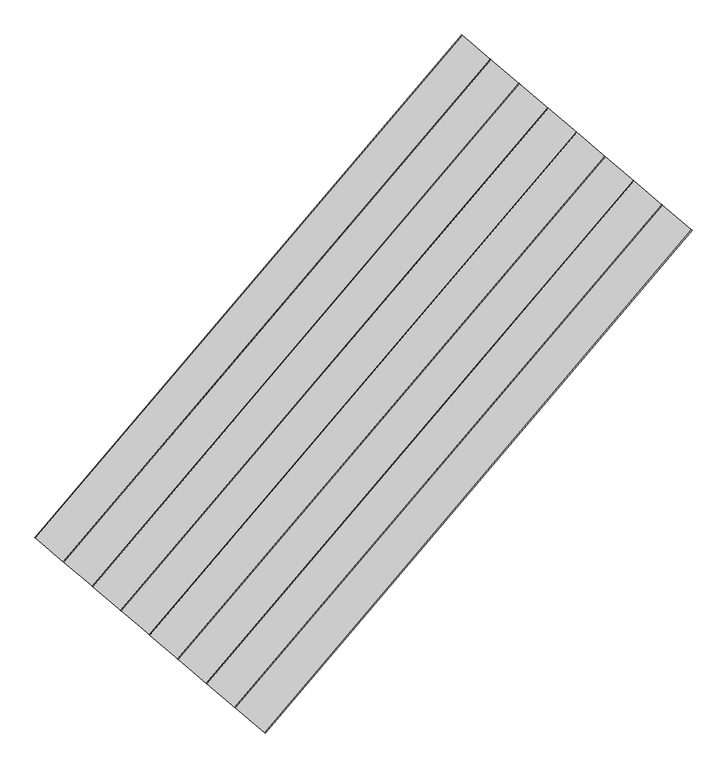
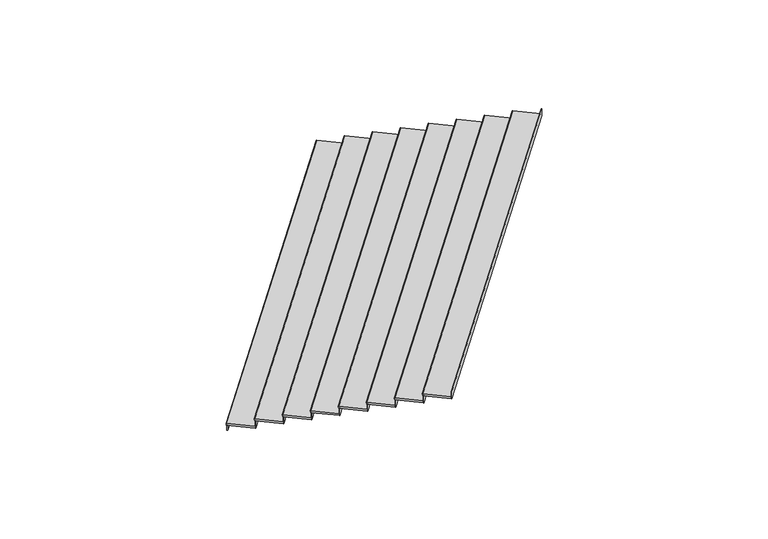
"""IFC4 building model written with IfcOpenShell, lengths in millimetres: stair flight geometry, Wood Steps with 50 mm Tread 20 mm Nosing 13 mm Riser."""

from ifc_helpers import new_model, si_unit, point, frame, frame_2d, origin, place, context, project, spatial, polyline, circle_curve, trimmed, segment, composite_curve, outline, extrude, source, transform, mapped, element, save


def stair_flight_07ffd0dd(model_context):
    return source(origin(), model_context, "Body", "SweptSolid", [
        extrude(outline(composite_curve([segment(polyline([(0.0, -598.410772), (0.0, 0.0)]), True, "CONTINUOUS"), segment(trimmed(circle_curve(frame_2d((10.0, 0.0)), 10.0), [point((0.0, 0.0))], [point((20.0, 0.0))], False, "CARTESIAN"), True, "CONTINUOUS"), segment(polyline([(20.0, 0.0), (50.0, 0.0), (50.0, -598.410772), (0.0, -598.410772)]), True, "CONTINUOUS")], self_intersect=False)), frame((857507.5069396, 43865.6872063, 2679.2941176), z_axis=(0.6473560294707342, 0.762187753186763, 0.0), x_axis=(0.0, 0.0, -1.0)), (0.0, 0.0, 1.0), 10348.9095119),
        extrude(outline(polyline([(857524.6561641, 43851.1216957), (857515.1288172, 43859.213646), (864214.5577881, 51747.0257349), (864224.085135, 51738.9337845), (857524.6561641, 43851.1216957)])), frame((0.0, 0.0, 2500.0), z_axis=(0.0, 0.0, 1.0), x_axis=(1.0, 0.0, 0.0)), (0.0, 0.0, 1.0), 129.2941176),
        extrude(outline(polyline([(857973.1356483, 43470.2104346), (857963.6083014, 43478.302385), (864663.0372724, 51366.1144738), (864672.5646193, 51358.0225234), (857973.1356483, 43470.2104346)])), frame((0.0, 0.0, 2629.2941176), z_axis=(0.0, 0.0, 1.0), x_axis=(1.0, 0.0, 0.0)), (0.0, 0.0, 1.0), 179.2941176),
        extrude(outline(composite_curve([segment(polyline([(0.0, -598.410772), (0.0, 0.0)]), True, "CONTINUOUS"), segment(trimmed(circle_curve(frame_2d((10.0, 0.0)), 10.0), [point((0.0, 0.0))], [point((20.0, 0.0))], False, "CARTESIAN"), True, "CONTINUOUS"), segment(polyline([(20.0, 0.0), (50.0, 0.0), (50.0, -598.410772), (0.0, -598.410772)]), True, "CONTINUOUS")], self_intersect=False)), frame((857955.9864239, 43484.7759453, 2858.5882353), z_axis=(0.6473560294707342, 0.762187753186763, 0.0), x_axis=(0.0, 0.0, -1.0)), (0.0, 0.0, 1.0), 10348.9095119),
        extrude(outline(polyline([(858421.6151326, 43089.2991736), (858412.0877857, 43097.3911239), (865111.5167566, 50985.2032128), (865121.0441035, 50977.1112624), (858421.6151326, 43089.2991736)])), frame((0.0, 0.0, 2808.5882353), z_axis=(0.0, 0.0, 1.0), x_axis=(1.0, 0.0, 0.0)), (0.0, 0.0, 1.0), 179.2941176),
        extrude(outline(composite_curve([segment(polyline([(0.0, -598.410772), (0.0, 0.0)]), True, "CONTINUOUS"), segment(trimmed(circle_curve(frame_2d((10.0, 0.0)), 10.0), [point((0.0, 0.0))], [point((20.0, 0.0))], False, "CARTESIAN"), True, "CONTINUOUS"), segment(polyline([(20.0, 0.0), (50.0, 0.0), (50.0, -598.410772), (0.0, -598.410772)]), True, "CONTINUOUS")], self_intersect=False)), frame((858404.4659081, 43103.8646842, 3037.8823529), z_axis=(0.6473560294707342, 0.762187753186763, 0.0), x_axis=(0.0, 0.0, -1.0)), (0.0, 0.0, 1.0), 10348.9095119),
        extrude(outline(polyline([(858870.0946168, 42708.3879125), (858860.5672699, 42716.4798629), (865559.9962409, 50604.2919517), (865569.5235878, 50596.2000013), (858870.0946168, 42708.3879125)])), frame((0.0, 0.0, 2987.8823529), z_axis=(0.0, 0.0, 1.0), x_axis=(1.0, 0.0, 0.0)), (0.0, 0.0, 1.0), 179.2941176),
        extrude(outline(composite_curve([segment(polyline([(0.0, -598.410772), (0.0, 0.0)]), True, "CONTINUOUS"), segment(trimmed(circle_curve(frame_2d((10.0, 0.0)), 10.0), [point((0.0, 0.0))], [point((20.0, 0.0))], False, "CARTESIAN"), True, "CONTINUOUS"), segment(polyline([(20.0, 0.0), (50.0, 0.0), (50.0, -598.410772), (0.0, -598.410772)]), True, "CONTINUOUS")], self_intersect=False)), frame((858852.9453924, 42722.9534232, 3217.1764706), z_axis=(0.6473560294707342, 0.762187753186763, 0.0), x_axis=(0.0, 0.0, -1.0)), (0.0, 0.0, 1.0), 10348.9095119),
        extrude(outline(polyline([(859318.5741011, 42327.4766515), (859309.0467542, 42335.5686018), (866008.4757251, 50223.3806907), (866018.0030721, 50215.2887403), (859318.5741011, 42327.4766515)])), frame((0.0, 0.0, 3167.1764706), z_axis=(0.0, 0.0, 1.0), x_axis=(1.0, 0.0, 0.0)), (0.0, 0.0, 1.0), 179.2941176),
        extrude(outline(composite_curve([segment(polyline([(0.0, -598.410772), (0.0, 0.0)]), True, "CONTINUOUS"), segment(trimmed(circle_curve(frame_2d((10.0, 0.0)), 10.0), [point((0.0, 0.0))], [point((20.0, 0.0))], False, "CARTESIAN"), True, "CONTINUOUS"), segment(polyline([(20.0, 0.0), (50.0, 0.0), (50.0, -598.410772), (0.0, -598.410772)]), True, "CONTINUOUS")], self_intersect=False)), frame((859301.4248766, 42342.0421621, 3396.4705882), z_axis=(0.6473560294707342, 0.762187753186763, 0.0), x_axis=(0.0, 0.0, -1.0)), (0.0, 0.0, 1.0), 10348.9095119),
        extrude(outline(polyline([(859767.0535853, 41946.5653904), (859757.5262384, 41954.6573408), (866456.9552094, 49842.4694296), (866466.4825563, 49834.3774792), (859767.0535853, 41946.5653904)])), frame((0.0, 0.0, 3346.4705882), z_axis=(0.0, 0.0, 1.0), x_axis=(1.0, 0.0, 0.0)), (0.0, 0.0, 1.0), 179.2941176),
        extrude(outline(composite_curve([segment(polyline([(0.0, -598.410772), (0.0, 0.0)]), True, "CONTINUOUS"), segment(trimmed(circle_curve(frame_2d((10.0, 0.0)), 10.0), [point((0.0, 0.0))], [point((20.0, 0.0))], False, "CARTESIAN"), True, "CONTINUOUS"), segment(polyline([(20.0, 0.0), (50.0, 0.0), (50.0, -598.410772), (0.0, -598.410772)]), True, "CONTINUOUS")], self_intersect=False)), frame((859749.9043609, 41961.1309011, 3575.7647059), z_axis=(0.6473560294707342, 0.762187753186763, 0.0), x_axis=(0.0, 0.0, -1.0)), (0.0, 0.0, 1.0), 10348.9095119),
        extrude(outline(polyline([(860215.5330696, 41565.6541294), (860206.0057227, 41573.7460797), (866905.4346936, 49461.5581686), (866914.9620406, 49453.4662182), (860215.5330696, 41565.6541294)])), frame((0.0, 0.0, 3525.7647059), z_axis=(0.0, 0.0, 1.0), x_axis=(1.0, 0.0, 0.0)), (0.0, 0.0, 1.0), 179.2941176),
        extrude(outline(composite_curve([segment(polyline([(0.0, -598.410772), (0.0, 0.0)]), True, "CONTINUOUS"), segment(trimmed(circle_curve(frame_2d((10.0, 0.0)), 10.0), [point((0.0, 0.0))], [point((20.0, 0.0))], False, "CARTESIAN"), True, "CONTINUOUS"), segment(polyline([(20.0, 0.0), (50.0, 0.0), (50.0, -598.410772), (0.0, -598.410772)]), True, "CONTINUOUS")], self_intersect=False)), frame((860198.3838451, 41580.21964, 3755.0588235), z_axis=(0.6473560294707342, 0.762187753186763, 0.0), x_axis=(0.0, 0.0, -1.0)), (0.0, 0.0, 1.0), 10348.9095119),
        extrude(outline(polyline([(860664.0125538, 41184.7428683), (860654.4852069, 41192.8348187), (867353.9141779, 49080.6469075), (867363.4415248, 49072.5549571), (860664.0125538, 41184.7428683)])), frame((0.0, 0.0, 3705.0588235), z_axis=(0.0, 0.0, 1.0), x_axis=(1.0, 0.0, 0.0)), (0.0, 0.0, 1.0), 179.2941176),
        extrude(outline(polyline([(861112.4920381, 40803.8316073), (861102.9646912, 40811.9235576), (867802.3936622, 48699.7356464), (867811.9210091, 48691.6436961), (861112.4920381, 40803.8316073)])), frame((0.0, 0.0, 3884.3529412), z_axis=(0.0, 0.0, 1.0), x_axis=(1.0, 0.0, 0.0)), (0.0, 0.0, 1.0), 179.2941176),
        extrude(outline(composite_curve([segment(polyline([(0.0, -598.410772), (0.0, 0.0)]), True, "CONTINUOUS"), segment(trimmed(circle_curve(frame_2d((10.0, 0.0)), 10.0), [point((0.0, 0.0))], [point((20.0, 0.0))], False, "CARTESIAN"), True, "CONTINUOUS"), segment(polyline([(20.0, 0.0), (50.0, 0.0), (50.0, -598.410772), (0.0, -598.410772)]), True, "CONTINUOUS")], self_intersect=False)), frame((860646.8633294, 41199.308379, 3934.3529412), z_axis=(0.6473560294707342, 0.762187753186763, 0.0), x_axis=(0.0, 0.0, -1.0)), (0.0, 0.0, 1.0), 10348.9095119),
    ])


if __name__ == "__main__":
    model = new_model("IFC4")
    model_context = context("Model", 3, world=origin())
    ifc_project = project(units=[si_unit("LENGTHUNIT", "METRE", prefix="MILLI")], contexts=[model_context])
    site = spatial("IfcSite", under=ifc_project)
    building = spatial("IfcBuilding", under=site)
    placement = place(None, origin())
    stair_flight_shape = stair_flight_07ffd0dd(model_context)
    element("IfcStairFlight", 1, ObjectType="Wood Steps with 50 mm Tread 20 mm Nosing 13 mm Riser", at=placement, inside=building, context=model_context, shape_type="MappedRepresentation", body=[
        mapped(stair_flight_shape, transform((0.0, 0.0, 0.0), x_axis=(1.0, 0.0, 0.0), y_axis=(0.0, 1.0, 0.0), z_axis=(0.0, 0.0, 1.0))),
    ])
    save(model, "model.ifc")
